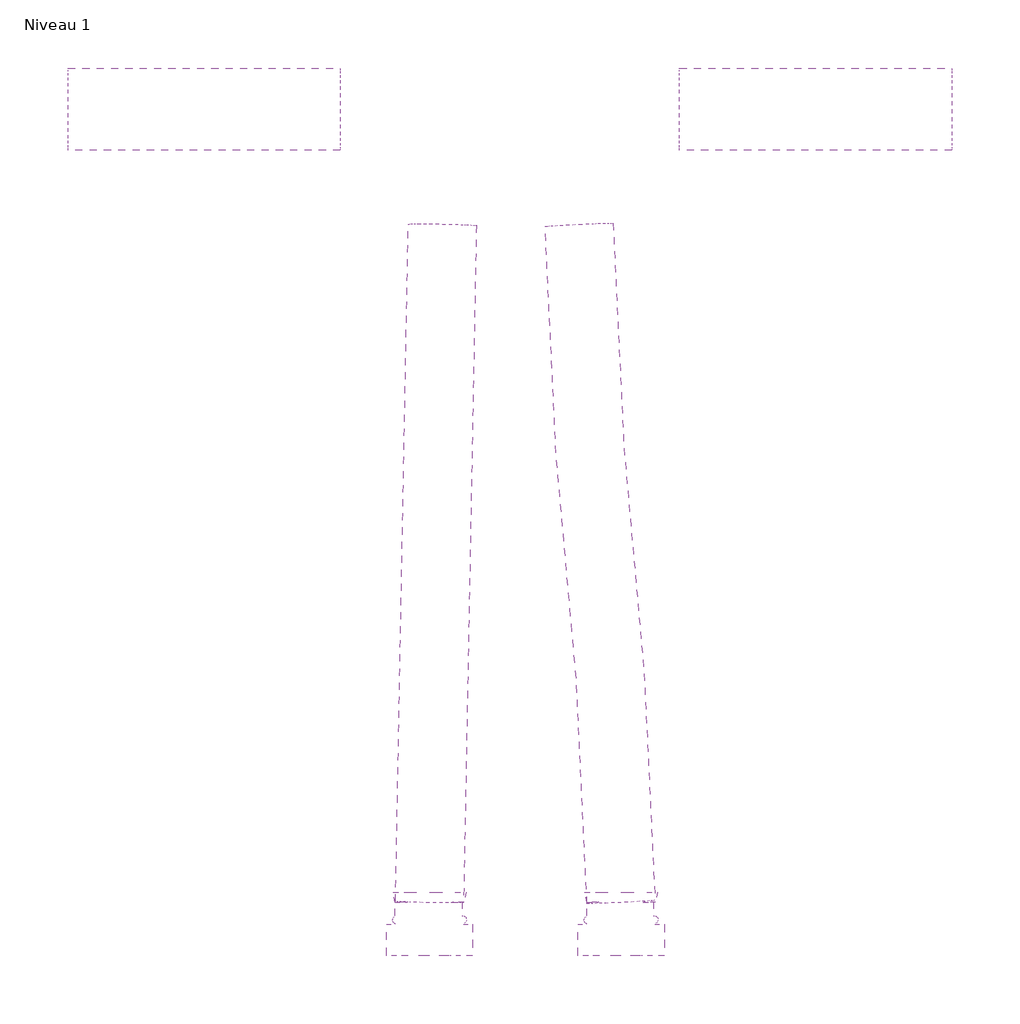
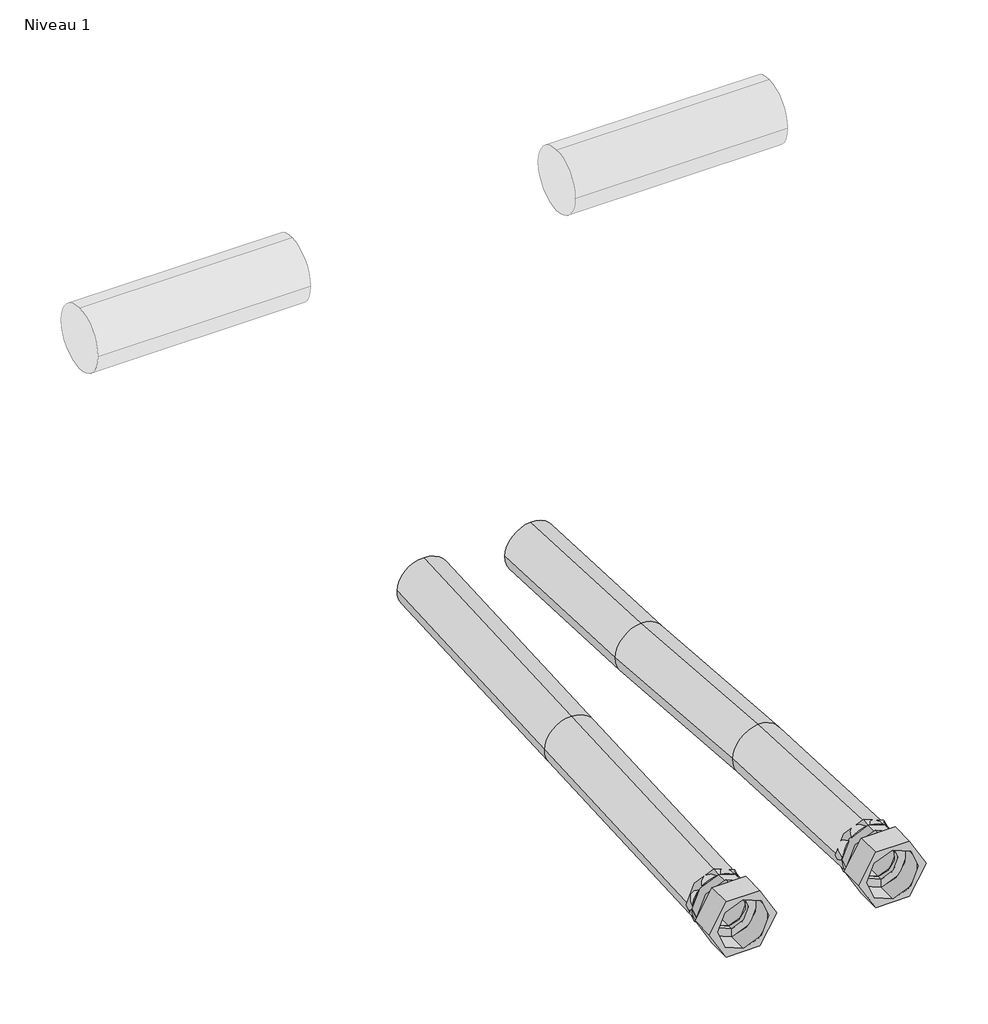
# One storey, incomplete: 4 pipe segments, 2 pipe fittings.
"""IFC4 building model written with IfcOpenShell, lengths in millimetres."""

import ifcopenshell
import ifcopenshell.guid

model = None  # the IFC model being written
_history = None  # IfcOwnerHistory: only IFC2X3 demands one
_inside = {}  # id of a spatial element -> (the spatial element, [elements in it])
_under = {}  # id of a project, library or spatial element -> (it, [spatial elements below it])
_declared = {}  # id of a project -> (the project, [libraries it declares])
_typed = {}  # id of a type object -> (the type object, [elements of that type])
_made_of = {}  # id of a material, layer set ... -> (it, [elements and type objects made of it])


def new_model(schema):
    """Start an empty IFC model of exactly this schema.

    Asked for "IFC4X3", IfcOpenShell would pick the latest addendum, in which some entities
    have other attributes; the version numbers below select the first issue.
    IFC2X3 requires an IfcOwnerHistory on every rooted entity: one is made here for all.
    """
    global model, _history
    if schema == "IFC4X3":
        model = ifcopenshell.file(schema_version=(4, 3, 0, 0))
    else:
        model = ifcopenshell.file(schema=schema)
    _inside.clear()
    _under.clear()
    _declared.clear()
    _typed.clear()
    _made_of.clear()
    _history = None
    if model.schema == "IFC2X3":
        org = make("IfcOrganization", Name="unknown")
        user = make(
            "IfcPersonAndOrganization",
            ThePerson=make("IfcPerson", FamilyName="unknown"),
            TheOrganization=org,
        )
        app = make(
            "IfcApplication",
            ApplicationDeveloper=org,
            Version="unknown",
            ApplicationFullName="unknown",
            ApplicationIdentifier="unknown",
        )
        _history = make(
            "IfcOwnerHistory",
            OwningUser=user,
            OwningApplication=app,
            ChangeAction="ADDED",
            CreationDate=0,
        )
    return model


def make(cls, **values):
    """One entity of the class cls with the attributes given. An attribute that is None is left unset."""
    return model.create_entity(
        cls, **{name: value for name, value in values.items() if value is not None}
    )


def rooted(cls, **values):
    """An entity with a GlobalId (a new one), such as an element, a storey or a relation."""
    return make(cls, GlobalId=ifcopenshell.guid.new(), OwnerHistory=_history, **values)


def si_unit(unit_type, name, prefix=None):
    """IfcSIUnit, for example si_unit("LENGTHUNIT", "METRE", prefix="MILLI")."""
    return make("IfcSIUnit", UnitType=unit_type, Prefix=prefix, Name=name)


def assignment(units):
    """IfcUnitAssignment: the units of a project."""
    return None if units is None else make("IfcUnitAssignment", Units=units)


def point(xyz):
    """IfcCartesianPoint."""
    return None if xyz is None else make("IfcCartesianPoint", Coordinates=xyz)


def direction(xyz):
    """IfcDirection."""
    return None if xyz is None else make("IfcDirection", DirectionRatios=xyz)


def frame(location, z_axis=None, x_axis=None):
    """IfcAxis2Placement3D, a coordinate frame: its origin and axes. An axis left out is left unset."""
    return make(
        "IfcAxis2Placement3D",
        Location=point(location),
        Axis=direction(z_axis),
        RefDirection=direction(x_axis),
    )


def frame_2d(location, x_axis=None):
    """IfcAxis2Placement2D, a coordinate frame in the plane: its origin and x axis."""
    return make(
        "IfcAxis2Placement2D", Location=point(location), RefDirection=direction(x_axis)
    )


def origin():
    """The frame at (0, 0, 0) with its axes left unset."""
    return frame((0.0, 0.0, 0.0))


def place(relative_to, where):
    """IfcLocalPlacement: puts the frame where relative to a parent placement (None: the world)."""
    return make(
        "IfcLocalPlacement", PlacementRelTo=relative_to, RelativePlacement=where
    )


def context(
    kind, dimensions, precision=None, world=None, true_north=None, identifier=None
):
    """IfcGeometricRepresentationContext, for example the 3D "Model" context."""
    return make(
        "IfcGeometricRepresentationContext",
        ContextIdentifier=identifier,
        ContextType=kind,
        CoordinateSpaceDimension=dimensions,
        Precision=precision,
        WorldCoordinateSystem=world,
        TrueNorth=true_north,
    )


def project(units=None, contexts=None):
    """IfcProject with its units and contexts."""
    return rooted(
        "IfcProject",
        Name="project",
        RepresentationContexts=contexts,
        UnitsInContext=assignment(units),
    )


def spatial(cls, under=None, at=None, **own):
    """A site, building, storey or space (cls), placed at a placement, below another one or the project."""
    s = rooted(cls, ObjectPlacement=at, **own)
    if under is not None:
        _under.setdefault(under.id(), (under, []))[1].append(s)
    return s


def polyline(points):
    """IfcPolyline through the points."""
    return make("IfcPolyline", Points=[point(p) for p in points])


def circle_curve(where, radius):
    """IfcCircle in the frame where."""
    return make("IfcCircle", Position=where, Radius=radius)


def ellipse_curve(where, semi_axis1, semi_axis2):
    """IfcEllipse in the frame where."""
    return make(
        "IfcEllipse", Position=where, SemiAxis1=semi_axis1, SemiAxis2=semi_axis2
    )


def trimmed(basis, trim1, trim2, sense, master):
    """IfcTrimmedCurve: the piece of a basis curve between two trims."""
    return make(
        "IfcTrimmedCurve",
        BasisCurve=basis,
        Trim1=trim1,
        Trim2=trim2,
        SenseAgreement=sense,
        MasterRepresentation=master,
    )


def segment(curve, same_sense, transition):
    """IfcCompositeCurveSegment."""
    return make(
        "IfcCompositeCurveSegment",
        Transition=transition,
        SameSense=same_sense,
        ParentCurve=curve,
    )


def composite_curve(segments, self_intersect=None):
    """IfcCompositeCurve: segments joined end to end."""
    return make("IfcCompositeCurve", Segments=segments, SelfIntersect=self_intersect)


def outline(outer, holes=None, kind="AREA"):
    """IfcArbitraryClosedProfileDef: a profile drawn as a closed curve; with holes, ...WithVoids."""
    if holes is None:
        return make("IfcArbitraryClosedProfileDef", ProfileType=kind, OuterCurve=outer)
    return make(
        "IfcArbitraryProfileDefWithVoids",
        ProfileType=kind,
        OuterCurve=outer,
        InnerCurves=holes,
    )


def extrude(swept, where, along, depth):
    """IfcExtrudedAreaSolid: the profile swept, set in the frame where, extruded along a direction by depth."""
    return make(
        "IfcExtrudedAreaSolid",
        SweptArea=swept,
        Position=where,
        ExtrudedDirection=direction(along),
        Depth=depth,
    )


def shape(context_of_items, identifier, shape_type, items):
    """IfcShapeRepresentation: the items that make up one representation, for example the "Body"."""
    return make(
        "IfcShapeRepresentation",
        ContextOfItems=context_of_items,
        RepresentationIdentifier=identifier,
        RepresentationType=shape_type,
        Items=items,
    )


def source(mapping_origin, context_of_items, identifier, shape_type, items):
    """IfcRepresentationMap: a shape defined once, which mapped items show again and again."""
    return make(
        "IfcRepresentationMap",
        MappingOrigin=mapping_origin,
        MappedRepresentation=shape(context_of_items, identifier, shape_type, items),
    )


def transform(
    local_origin,
    x_axis=None,
    y_axis=None,
    z_axis=None,
    scale=None,
    scale2=None,
    scale3=None,
    uniform=True,
):
    """IfcCartesianTransformationOperator3D, or its non-uniform kind. x_axis, y_axis, z_axis: its Axis1, 2, 3."""
    if uniform:
        return make(
            "IfcCartesianTransformationOperator3D",
            Axis1=direction(x_axis),
            Axis2=direction(y_axis),
            LocalOrigin=point(local_origin),
            Scale=scale,
            Axis3=direction(z_axis),
        )
    return make(
        "IfcCartesianTransformationOperator3DnonUniform",
        Axis1=direction(x_axis),
        Axis2=direction(y_axis),
        LocalOrigin=point(local_origin),
        Scale=scale,
        Axis3=direction(z_axis),
        Scale2=scale2,
        Scale3=scale3,
    )


def mapped(mapping_source, mapping_target):
    """IfcMappedItem: shows the shape of a source again, moved by a transform."""
    return make(
        "IfcMappedItem", MappingSource=mapping_source, MappingTarget=mapping_target
    )


def made_of(thing, what):
    """Note that an element or type object is made of a material, layer set ...; save() writes the relation."""
    if what is not None:
        _made_of.setdefault(what.id(), (what, []))[1].append(thing)
    return thing


def element(
    cls,
    number,
    at=None,
    inside=None,
    cuts=None,
    type_object=None,
    material=None,
    context=None,
    identifier="Body",
    shape_type=None,
    held_by="IfcProductDefinitionShape",
    body=None,
    shapes=None,
    **own,
):
    """One element of the class cls, such as IfcWall. Its Tag is "e" and its number.

    at: its placement. inside: the storey or other place that contains it. cuts: it is an
    opening in that element (IfcRelVoidsElement). A single representation is given by context,
    identifier, shape_type and body (its items); several are given by shapes. held_by: the class
    of the entity that holds the representations. save() writes the other relations.
    """
    e = rooted(cls, Tag="e%d" % number, ObjectPlacement=at, **own)
    if body is not None:
        shapes = [shape(context, identifier, shape_type, body)]
    if shapes is not None:
        e.Representation = make(held_by, Representations=shapes)
    if inside is not None:
        _inside.setdefault(inside.id(), (inside, []))[1].append(e)
    if cuts is not None:
        rooted(
            "IfcRelVoidsElement", RelatingBuildingElement=cuts, RelatedOpeningElement=e
        )
    if type_object is not None:
        _typed.setdefault(type_object.id(), (type_object, []))[1].append(e)
    return made_of(e, material)


def aggregate(whole, parts):
    """IfcRelAggregates: a whole, such as a stair, and the parts it consists of."""
    return rooted("IfcRelAggregates", RelatingObject=whole, RelatedObjects=parts)


def save(model, path):
    """Write the relations noted so far, then the file.

    IfcRelAggregates (storeys below a building ...), IfcRelContainedInSpatialStructure (elements
    in a storey), IfcRelDefinesByType, IfcRelAssociatesMaterial and IfcRelDeclares: one each for
    every whole, place, type object, material and project.
    """
    for whole, parts in _under.values():
        aggregate(whole, parts)
    for where, things in _inside.values():
        rooted(
            "IfcRelContainedInSpatialStructure",
            RelatedElements=things,
            RelatingStructure=where,
        )
    for kind, things in _typed.values():
        rooted("IfcRelDefinesByType", RelatedObjects=things, RelatingType=kind)
    for what, things in _made_of.values():
        rooted("IfcRelAssociatesMaterial", RelatedObjects=things, RelatingMaterial=what)
    for by, libraries in _declared.values():
        rooted("IfcRelDeclares", RelatingContext=by, RelatedDefinitions=libraries)
    model.write(path)


def plane_surface(at):
    """IfcPlane: the flat surface through the origin of the frame at, square to its z axis."""
    return make("IfcPlane", Position=at)


def cylinder_surface(at, radius):
    """IfcCylindricalSurface: all points at the distance radius from the z axis of the frame at."""
    return make("IfcCylindricalSurface", Position=at, Radius=radius)


def revolved_surface(curve, axis_point, axis_direction):
    """IfcSurfaceOfRevolution: the curve turned about the line through axis_point along axis_direction."""
    return make(
        "IfcSurfaceOfRevolution",
        SweptCurve=make("IfcArbitraryOpenProfileDef", ProfileType="CURVE", Curve=curve),
        AxisPosition=make("IfcAxis1Placement", Location=point(axis_point), Axis=direction(axis_direction)),
    )


def advanced_brep(points, edges, surfaces, faces):
    """IfcAdvancedBrep: a solid bounded by faces that lie on surfaces and meet in shared edges.

    An edge is (start, end): straight between two places in points (the first is 0);
    or (start, end, curve); or (start, end, curve, False) where it runs against its curve.
    A face is (place in surfaces, loops), or (place, loops, False) where it looks against
    its surface's normal. A loop lists edges by number (the first is 1), with a minus sign
    where the edge is run from its end to its start. The first loop is the outer one.
    """
    corners = [point(p) for p in points]
    vertices = [make("IfcVertexPoint", VertexGeometry=c) for c in corners]
    made = []
    for start, end, *more in edges:
        made.append(
            make(
                "IfcEdgeCurve",
                EdgeStart=vertices[start],
                EdgeEnd=vertices[end],
                EdgeGeometry=more[0] if more else make("IfcPolyline", Points=[corners[start], corners[end]]),
                SameSense=more[1] if len(more) > 1 else True,
            )
        )
    hull = []
    for where, loops, *sense in faces:
        bounds = []
        for j, loop in enumerate(loops):
            ring = [make("IfcOrientedEdge", EdgeElement=made[abs(k) - 1], Orientation=k > 0) for k in loop]
            bounds.append(
                make(
                    "IfcFaceOuterBound" if j == 0 else "IfcFaceBound",
                    Bound=make("IfcEdgeLoop", EdgeList=ring),
                    Orientation=True,
                )
            )
        hull.append(make("IfcAdvancedFace", Bounds=bounds, FaceSurface=surfaces[where], SameSense=sense[0] if sense else True))
    return make("IfcAdvancedBrep", Outer=make("IfcClosedShell", CfsFaces=hull))


def pipe_fitting_73059a0c(model_context):
    return source(origin(), model_context, "Body", "AdvancedBrep", [
        advanced_brep(
        [(0.0, 39.498215, -25.1751434), (0.0, 39.498215, 25.1751434), (0.0, 29.498215, 25.1751434), (0.0, 29.498215, -25.1751434), (0.0, 46.7939176, -26.7356506), (0.0, 46.7939176, 26.7356506), (0.0, 39.6718759, -24.3627676), (0.0, 39.6718759, 24.3627676), (0.0, 46.7939176, 25.7671136), (0.0, 46.7939176, -25.7671136), (0.0, 39.6718759, -16.0916757), (0.0, 39.6718759, 16.0916757), (0.0, 23.3958279, -24.9934981), (0.0, 23.3958279, 24.9934981), (0.0, 23.3958279, 16.0916757), (0.0, 23.3958279, -16.0916757)],
        [
            (0, 1, circle_curve(frame((0.0, 39.498215, 0.0), z_axis=(0.0, -1.0, 0.0), x_axis=(0.0, 0.0, 1.0)), 25.1751434)),
            (1, 2),
            (2, 3, circle_curve(frame((0.0, 29.498215, 0.0), z_axis=(0.0, 1.0, 0.0), x_axis=(0.0, 0.0, 1.0)), 25.1751434)),
            (3, 0),
            (1, 0, circle_curve(frame((0.0, 39.498215, 0.0), z_axis=(0.0, -1.0, 0.0), x_axis=(0.0, 0.0, 1.0)), 25.1751434)),
            (3, 2, circle_curve(frame((0.0, 29.498215, 0.0), z_axis=(0.0, 1.0, 0.0), x_axis=(0.0, 0.0, 1.0)), 25.1751434)),
            (0, 4, circle_curve(frame((0.0, 46.3570069, -10.9435686), z_axis=(1.0, 0.0, 0.0), x_axis=(0.0, -1.0, 0.0)), 15.7981248)),
            (4, 5, circle_curve(frame((0.0, 46.7939176, 0.0), z_axis=(0.0, -1.0, 0.0), x_axis=(0.0, 0.0, 1.0)), 26.7356506)),
            (5, 1, circle_curve(frame((0.0, 46.3570069, 10.9435686), z_axis=(1.0, 0.0, 0.0), x_axis=(0.0, -1.0, 0.0)), 15.7981248)),
            (5, 4, circle_curve(frame((0.0, 46.7939176, 0.0), z_axis=(0.0, -1.0, 0.0), x_axis=(0.0, 0.0, 1.0)), 26.7356506)),
            (6, 7, circle_curve(frame((0.0, 39.6718759, 0.0), z_axis=(0.0, -1.0, 0.0), x_axis=(0.0, 0.0, 1.0)), 24.3627676)),
            (7, 8, circle_curve(frame((0.0, 46.1278476, 10.3834015), z_axis=(-1.0, 0.0, 0.0), x_axis=(0.0, -1.0, 0.0)), 15.3981248)),
            (8, 9, circle_curve(frame((0.0, 46.7939176, 0.0), z_axis=(0.0, 1.0, 0.0), x_axis=(0.0, 0.0, 1.0)), 25.7671136)),
            (9, 6, circle_curve(frame((0.0, 46.1278476, -10.3834015), z_axis=(-1.0, 0.0, 0.0), x_axis=(0.0, -1.0, 0.0)), 15.3981248)),
            (7, 6, circle_curve(frame((0.0, 39.6718759, 0.0), z_axis=(0.0, -1.0, 0.0), x_axis=(0.0, 0.0, 1.0)), 24.3627676)),
            (9, 8, circle_curve(frame((0.0, 46.7939176, 0.0), z_axis=(0.0, 1.0, 0.0), x_axis=(0.0, 0.0, 1.0)), 25.7671136)),
            (6, 10),
            (10, 11, circle_curve(frame((0.0, 39.6718759, 0.0), z_axis=(0.0, -1.0, 0.0), x_axis=(0.0, 0.0, 1.0)), 16.0916757)),
            (11, 7),
            (11, 10, circle_curve(frame((0.0, 39.6718759, 0.0), z_axis=(0.0, -1.0, 0.0), x_axis=(0.0, 0.0, 1.0)), 16.0916757)),
            (12, 13, circle_curve(frame((0.0, 23.3958279, 0.0), z_axis=(0.0, -1.0, 0.0), x_axis=(0.0, 0.0, 1.0)), 24.9934981)),
            (13, 14),
            (14, 15, circle_curve(frame((0.0, 23.3958279, 0.0), z_axis=(0.0, 1.0, 0.0), x_axis=(0.0, 0.0, 1.0)), 16.0916757)),
            (15, 12),
            (13, 12, circle_curve(frame((0.0, 23.3958279, 0.0), z_axis=(0.0, -1.0, 0.0), x_axis=(0.0, 0.0, 1.0)), 24.9934981)),
            (15, 14, circle_curve(frame((0.0, 23.3958279, 0.0), z_axis=(0.0, 1.0, 0.0), x_axis=(0.0, 0.0, 1.0)), 16.0916757)),
            (2, 13, circle_curve(frame((0.0, 26.4795374, 23.9919456), z_axis=(1.0, 0.0, 0.0), x_axis=(0.0, -1.0, 0.0)), 3.2422788)),
            (12, 3, circle_curve(frame((0.0, 26.4795374, -23.9919456), z_axis=(1.0, 0.0, 0.0), x_axis=(0.0, -1.0, 0.0)), 3.2422788)),
            (14, 11),
            (10, 15),
            (4, 9),
            (8, 5),
        ],
        [
            cylinder_surface(frame((0.0, -30.0, 0.0), z_axis=(0.0, 1.0, 0.0), x_axis=(0.0, 0.0, 1.0)), 25.1751434),
            revolved_surface(trimmed(ellipse_curve(frame((0.0, 46.3570069, 10.9435686), z_axis=(-1.0, 0.0, 0.0), x_axis=(0.0, -1.0, 0.0)), 15.7981248, 15.7981248), [point((0.0, 39.498215, 25.1751434))], [point((0.0, 46.7939176, 26.7356506))], True, "CARTESIAN"), (0.0, -30.0, 0.0), (0.0, 1.0, 0.0)),
            revolved_surface(trimmed(ellipse_curve(frame((0.0, 46.1278476, 10.3834015), z_axis=(1.0, 0.0, 0.0), x_axis=(0.0, -1.0, 0.0)), 15.3981248, 15.3981248), [point((0.0, 46.7939176, 25.7671136))], [point((0.0, 39.6718759, 24.3627676))], True, "CARTESIAN"), (0.0, -30.0, 0.0), (0.0, 1.0, 0.0)),
            plane_surface(frame((0.0, 39.6718759, 0.0), z_axis=(0.0, 1.0, 0.0), x_axis=(0.0, 0.0, 1.0))),
            plane_surface(frame((0.0, 23.3958279, 0.0), z_axis=(0.0, -1.0, 0.0), x_axis=(0.0, 0.0, 1.0))),
            revolved_surface(trimmed(ellipse_curve(frame((0.0, 26.4795374, 23.9919456), z_axis=(-1.0, 0.0, 0.0), x_axis=(0.0, -1.0, 0.0)), 3.2422788, 3.2422788), [point((0.0, 23.3958279, 24.9934981))], [point((0.0, 29.498215, 25.1751434))], True, "CARTESIAN"), (0.0, -30.0, 0.0), (0.0, 1.0, 0.0)),
            revolved_surface(polyline([(0.0, 39.6718759, 16.0916757), (0.0, 23.3958279, 16.0916757)]), (0.0, 6.7414234, 0.0), (0.0, 1.0, 0.0)),
            plane_surface(frame((0.0, 46.7939176, 0.0), z_axis=(0.0, 1.0, 0.0), x_axis=(0.0, 0.0, 1.0))),
        ],
        [
            (0, [[1, 2, 3, 4]]),
            (0, [[-2, 5, -4, 6]]),
            (1, [[-1, 7, 8, 9]]),
            (1, [[-5, -9, 10, -7]]),
            (2, [[11, 12, 13, 14]]),
            (2, [[-12, 15, -14, 16]]),
            (3, [[-11, 17, 18, 19]]),
            (3, [[-15, -19, 20, -17]]),
            (4, [[21, 22, 23, 24]]),
            (4, [[25, -24, 26, -22]]),
            (5, [[-3, 27, -21, 28]]),
            (5, [[-6, -28, -25, -27]]),
            (6, [[29, -18, 30, -23]]),
            (6, [[-29, -26, -30, -20]]),
            (7, [[-8, 31, -13, 32]]),
            (7, [[-10, -32, -16, -31]]),
        ],
    ),
        advanced_brep(
        [(15.8771324, 23.3958279, 27.5), (31.7542648, 23.3958279, 0.0), (15.8771324, 23.3958279, -27.5), (-15.8771324, 23.3958279, -27.5), (-31.7542648, 23.3958279, 0.0), (-15.8771324, 23.3958279, 27.5), (0.0, 23.3958279, -16.1061091), (0.0, 23.3958279, 16.1061091), (15.8771324, 0.0, 27.5), (-15.8771324, 0.0, 27.5), (-31.7542648, 0.0, 0.0), (-15.8771324, 0.0, -27.5), (15.8771324, 0.0, -27.5), (31.7542648, 0.0, 0.0), (0.0, 0.0, 24.1061091), (0.0, 0.0, -24.1061091), (0.0, 18.8507541, -16.1061091), (0.0, 18.8507541, -24.1061091), (0.0, 18.8507541, 24.1061091), (0.0, 18.8507541, 16.1061091)],
        [
            (0, 1),
            (1, 2),
            (2, 3),
            (3, 4),
            (4, 5),
            (5, 0),
            (6, 7, circle_curve(frame((0.0, 23.3958279, 0.0), z_axis=(0.0, -1.0, 0.0), x_axis=(0.0, 0.0, 1.0)), 16.1061091)),
            (7, 6, circle_curve(frame((0.0, 23.3958279, 0.0), z_axis=(0.0, -1.0, 0.0), x_axis=(0.0, 0.0, 1.0)), 16.1061091)),
            (8, 9),
            (9, 10),
            (10, 11),
            (11, 12),
            (12, 13),
            (13, 8),
            (14, 15, circle_curve(frame((0.0, 0.0, 0.0), z_axis=(0.0, 1.0, 0.0), x_axis=(0.0, 0.0, 1.0)), 24.1061091)),
            (15, 14, circle_curve(frame((0.0, 0.0, 0.0), z_axis=(0.0, 1.0, 0.0), x_axis=(0.0, 0.0, 1.0)), 24.1061091)),
            (0, 8),
            (13, 1),
            (12, 2),
            (11, 3),
            (10, 4),
            (9, 5),
            (16, 17),
            (17, 18, circle_curve(frame((0.0, 18.8507541, 0.0), z_axis=(0.0, -1.0, 0.0), x_axis=(0.0, 0.0, 1.0)), 24.1061091)),
            (18, 19),
            (19, 16, circle_curve(frame((0.0, 18.8507541, 0.0), z_axis=(0.0, 1.0, 0.0), x_axis=(0.0, 0.0, 1.0)), 16.1061091)),
            (16, 19, circle_curve(frame((0.0, 18.8507541, 0.0), z_axis=(0.0, 1.0, 0.0), x_axis=(0.0, 0.0, 1.0)), 16.1061091)),
            (18, 17, circle_curve(frame((0.0, 18.8507541, 0.0), z_axis=(0.0, -1.0, 0.0), x_axis=(0.0, 0.0, 1.0)), 24.1061091)),
            (17, 15),
            (14, 18),
            (19, 7),
            (6, 16),
        ],
        [
            plane_surface(frame((7.9385662, 23.3958279, 41.25), z_axis=(0.0, 1.0, 0.0), x_axis=(0.4999999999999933, 0.0, -0.8660254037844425))),
            plane_surface(frame((7.9385662, 0.0, 41.25), z_axis=(0.0, -1.0, 0.0), x_axis=(-0.4999999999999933, 0.0, 0.8660254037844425))),
            plane_surface(frame((15.8771324, 23.3958279, 27.5), z_axis=(0.8660254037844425, 0.0, 0.4999999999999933), x_axis=(0.0, -1.0, 0.0))),
            plane_surface(frame((31.7542648, 23.3958279, 0.0), z_axis=(0.8660254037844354, 0.0, -0.5000000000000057), x_axis=(0.0, -1.0, 0.0))),
            plane_surface(frame((15.8771324, 23.3958279, -27.5), z_axis=(0.0, 0.0, -1.0), x_axis=(0.0, -1.0, 0.0))),
            plane_surface(frame((-15.8771324, 23.3958279, -27.5), z_axis=(-0.8660254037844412, 0.0, -0.4999999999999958), x_axis=(0.0, -1.0, 0.0))),
            plane_surface(frame((-31.7542648, 23.3958279, 0.0), z_axis=(-0.8660254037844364, 0.0, 0.500000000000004), x_axis=(0.0, -1.0, 0.0))),
            plane_surface(frame((-15.8771324, 23.3958279, 27.5), z_axis=(0.0, 0.0, 1.0), x_axis=(0.0, -1.0, 0.0))),
            plane_surface(frame((0.0, 18.8507541, 0.0), z_axis=(0.0, -1.0, 0.0), x_axis=(0.0, 0.0, 1.0))),
            revolved_surface(polyline([(0.0, 18.850754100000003, 24.1061091), (0.0, 0.0, 24.1061091)]), (0.0, -30.0, 0.0), (0.0, 1.0, 0.0)),
            revolved_surface(polyline([(0.0, 23.3958279, 16.1061091), (0.0, 18.850754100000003, 16.1061091)]), (0.0, -30.0, 0.0), (0.0, 1.0, 0.0)),
        ],
        [
            (0, [[1, 2, 3, 4, 5, 6], [7, 8]]),
            (1, [[9, 10, 11, 12, 13, 14], [15, 16]]),
            (2, [[-1, 17, -14, 18]]),
            (3, [[-2, -18, -13, 19]]),
            (4, [[-3, -19, -12, 20]]),
            (5, [[-4, -20, -11, 21]]),
            (6, [[-5, -21, -10, 22]]),
            (7, [[-6, -22, -9, -17]]),
            (8, [[23, 24, 25, 26]]),
            (8, [[-23, 27, -25, 28]]),
            (9, [[-24, 29, -15, 30]]),
            (9, [[-28, -30, -16, -29]]),
            (10, [[-26, 31, -7, 32]]),
            (10, [[-27, -32, -8, -31]]),
        ],
    ),
    ])


model = new_model("IFC4")

# Units and contexts
model_context = context("Model", 3, world=origin())
ifc_project = project(units=[si_unit("LENGTHUNIT", "METRE", prefix="MILLI")], contexts=[model_context])

# Site, building, storey
site = spatial("IfcSite", under=ifc_project)
building = spatial("IfcBuilding", under=site)
storey = spatial("IfcBuildingStorey", under=building, Name="Niveau 1", Elevation=0.0)

# Pipe fittings
placement = place(None, origin())
pipe_fitting_shape = pipe_fitting_73059a0c(model_context)
element("IfcPipeFitting", 1, ObjectType="BWT_Raccord Aval : BWT_Raccord Aval", at=placement, inside=storey, context=model_context, shape_type="MappedRepresentation", body=[
    mapped(pipe_fitting_shape, transform((852.8984863, -2754.9395637, 1651.1), x_axis=(1.0000000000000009, 0.0, 0.0), y_axis=(0.0, 1.0000000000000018, 0.0), z_axis=(0.0, 0.0, 1.0000000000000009))),
])
element("IfcPipeFitting", 2, ObjectType="BWT_Raccord Aval : BWT_Raccord Aval", at=placement, inside=storey, context=model_context, shape_type="MappedRepresentation", body=[
    mapped(pipe_fitting_shape, transform((712.173664, -2754.9395637, 1651.1), x_axis=(1.0000000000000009, 0.0, 0.0), y_axis=(0.0, 1.0000000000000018, 0.0), z_axis=(0.0, 0.0, 1.0000000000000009))),
])

# Pipe segments
element("IfcPipeSegment", 3, ObjectType="Souple - Circulaire", at=placement, inside=storey, context=model_context, shape_type="AdvancedBrep", body=[
    advanced_brep(
    [(687.1781024, -2714.7966282, 1651.1), (712.1842882, -2714.703945, 1626.1063592), (737.1692257, -2715.7387473, 1651.1), (712.1630399, -2715.8314305, 1676.0936408), (691.8640599, -2466.1483562, 1656.7103649), (716.8702457, -2466.055673, 1631.7167241), (741.8551833, -2467.0904753, 1656.7103649), (716.8489975, -2467.1831585, 1681.7040057), (696.5500175, -2217.5000843, 1662.3207297), (721.534955, -2218.5348866, 1687.3143706), (746.5411408, -2218.4422034, 1662.3207297), (721.5562033, -2217.4074011, 1637.3270889)],
    [
        (0, 1, circle_curve(frame((712.173664, -2715.2676878, 1651.1), z_axis=(-0.018837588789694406, -0.9995681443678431, -0.02255371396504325), x_axis=(-0.999822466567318, 0.018842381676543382, 0.0)), 25.0)),
        (1, 2, circle_curve(frame((712.173664, -2715.2676878, 1651.1), z_axis=(-0.018837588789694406, -0.9995681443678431, -0.02255371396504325), x_axis=(-0.999822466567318, 0.018842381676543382, 0.0)), 25.0)),
        (2, 3, circle_curve(frame((712.173664, -2715.2676878, 1651.1), z_axis=(-0.018837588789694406, -0.9995681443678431, -0.02255371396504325), x_axis=(-0.999822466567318, 0.018842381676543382, 0.0)), 25.0)),
        (3, 0, circle_curve(frame((712.173664, -2715.2676878, 1651.1), z_axis=(-0.018837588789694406, -0.9995681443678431, -0.02255371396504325), x_axis=(-0.999822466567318, 0.018842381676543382, 0.0)), 25.0)),
        (0, 4),
        (4, 5, circle_curve(frame((716.8596216, -2466.6194158, 1656.7103649), z_axis=(-0.018837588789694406, -0.9995681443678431, -0.02255371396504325), x_axis=(-0.999822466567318, 0.018842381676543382, 0.0)), 25.0)),
        (5, 1),
        (5, 6, circle_curve(frame((716.8596216, -2466.6194158, 1656.7103649), z_axis=(-0.018837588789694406, -0.9995681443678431, -0.02255371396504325), x_axis=(-0.999822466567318, 0.018842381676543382, 0.0)), 25.0)),
        (6, 2),
        (6, 7, circle_curve(frame((716.8596216, -2466.6194158, 1656.7103649), z_axis=(-0.018837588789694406, -0.9995681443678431, -0.02255371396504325), x_axis=(-0.999822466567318, 0.018842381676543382, 0.0)), 25.0)),
        (7, 3),
        (7, 4, circle_curve(frame((716.8596216, -2466.6194158, 1656.7103649), z_axis=(-0.018837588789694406, -0.9995681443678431, -0.02255371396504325), x_axis=(-0.999822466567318, 0.018842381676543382, 0.0)), 25.0)),
        (8, 9, circle_curve(frame((721.5455792, -2217.9711438, 1662.3207297), z_axis=(0.01883758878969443, 0.9995681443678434, 0.022553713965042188), x_axis=(-0.999822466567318, 0.018842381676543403, 0.0)), 25.0)),
        (9, 10, circle_curve(frame((721.5455792, -2217.9711438, 1662.3207297), z_axis=(0.01883758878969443, 0.9995681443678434, 0.022553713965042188), x_axis=(-0.999822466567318, 0.018842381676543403, 0.0)), 25.0)),
        (10, 11, circle_curve(frame((721.5455792, -2217.9711438, 1662.3207297), z_axis=(0.01883758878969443, 0.9995681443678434, 0.022553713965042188), x_axis=(-0.999822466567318, 0.018842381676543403, 0.0)), 25.0)),
        (11, 8, circle_curve(frame((721.5455792, -2217.9711438, 1662.3207297), z_axis=(0.01883758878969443, 0.9995681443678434, 0.022553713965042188), x_axis=(-0.999822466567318, 0.018842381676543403, 0.0)), 25.0)),
        (4, 8),
        (11, 5),
        (10, 6),
        (9, 7),
    ],
    [
        plane_surface(frame((712.173664, -2715.8316307, 1676.0936386), z_axis=(-0.018837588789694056, -0.9995681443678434, -0.022553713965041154), x_axis=(0.9998225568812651, -0.018832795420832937, -0.00042493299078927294))),
        cylinder_surface(frame((712.173664, -2715.2676878, 1651.1), z_axis=(-0.01883758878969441, -0.9995681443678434, -0.022553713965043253), x_axis=(-0.999822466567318, 0.018842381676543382, 0.0)), 25.0),
        plane_surface(frame((721.5455792, -2218.5350867, 1687.3143683), z_axis=(0.018837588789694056, 0.9995681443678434, 0.022553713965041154), x_axis=(0.9998225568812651, -0.018832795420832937, -0.00042493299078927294))),
        cylinder_surface(frame((716.8596216, -2466.6194158, 1656.7103649), z_axis=(-0.01883758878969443, -0.9995681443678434, -0.022553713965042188), x_axis=(-0.999822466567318, 0.018842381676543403, 0.0)), 25.0),
    ],
    [
        (0, [[1, 2, 3, 4]]),
        (1, [[-1, 5, 6, 7]]),
        (1, [[-2, -7, 8, 9]]),
        (1, [[-3, -9, 10, 11]]),
        (1, [[-4, -11, 12, -5]]),
        (2, [[13, 14, 15, 16]]),
        (3, [[-6, 17, -16, 18]]),
        (3, [[-8, -18, -15, 19]]),
        (3, [[-10, -19, -14, 20]]),
        (3, [[-12, -20, -13, -17]]),
    ],
),
])
element("IfcPipeSegment", 4, ObjectType="Souple - Circulaire", at=placement, inside=storey, context=model_context, shape_type="AdvancedBrep", body=[
    advanced_brep(
    [(827.9274268, -2716.4702629, 1651.1), (852.8774197, -2714.8302472, 1626.1038363), (877.8695458, -2714.0651126, 1651.1), (852.9195529, -2715.7051283, 1676.0961637), (819.9652802, -2551.1390222, 1654.0000577), (844.8814991, -2548.7977015, 1629.0161955), (869.8578683, -2547.7053793, 1654.0180984), (844.9416493, -2550.0467, 1679.0019606), (797.1207658, -2219.1737189, 1662.3207297), (822.1128919, -2218.4085843, 1687.3168935), (847.0628848, -2216.7685687, 1662.3207297), (822.0707587, -2217.5337033, 1637.324566), (805.1324434, -2385.5334523, 1659.4026313), (830.0486623, -2383.1921316, 1634.4187691), (855.0250315, -2382.0998094, 1659.420672), (830.1088125, -2384.4411301, 1684.4045342)],
    [
        (0, 1, circle_curve(frame((852.8984863, -2715.2676878, 1651.1), z_axis=(0.048095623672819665, -0.9986891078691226, -0.017517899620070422), x_axis=(-0.9988423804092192, -0.04810300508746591, 0.0)), 25.0)),
        (1, 2, circle_curve(frame((852.8984863, -2715.2676878, 1651.1), z_axis=(0.048095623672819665, -0.9986891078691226, -0.017517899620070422), x_axis=(-0.9988423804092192, -0.04810300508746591, 0.0)), 25.0)),
        (2, 3, circle_curve(frame((852.8984863, -2715.2676878, 1651.1), z_axis=(0.048095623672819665, -0.9986891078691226, -0.017517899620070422), x_axis=(-0.9988423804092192, -0.04810300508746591, 0.0)), 25.0)),
        (3, 0, circle_curve(frame((852.8984863, -2715.2676878, 1651.1), z_axis=(0.048095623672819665, -0.9986891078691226, -0.017517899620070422), x_axis=(-0.9988423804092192, -0.04810300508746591, 0.0)), 25.0)),
        (0, 4),
        (4, 5, ellipse_curve(frame((844.9115742, -2549.4222007, 1654.0090781), z_axis=(0.06864583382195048, -0.997327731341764, -0.02500291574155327), x_axis=(-0.9371030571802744, -0.07305748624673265, 0.34132164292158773)), 25.0060038, 25.0)),
        (5, 1),
        (5, 6, ellipse_curve(frame((844.9115742, -2549.4222007, 1654.0090781), z_axis=(0.06864583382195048, -0.997327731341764, -0.02500291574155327), x_axis=(-0.9371030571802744, -0.07305748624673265, 0.34132164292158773)), 25.0060038, 25.0)),
        (6, 2),
        (6, 7, ellipse_curve(frame((844.9115742, -2549.4222007, 1654.0090781), z_axis=(0.06864583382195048, -0.997327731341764, -0.02500291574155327), x_axis=(-0.9371030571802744, -0.07305748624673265, 0.34132164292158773)), 25.0060038, 25.0)),
        (7, 3),
        (7, 4, ellipse_curve(frame((844.9115742, -2549.4222007, 1654.0090781), z_axis=(0.06864583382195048, -0.997327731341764, -0.02500291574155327), x_axis=(-0.9371030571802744, -0.07305748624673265, 0.34132164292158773)), 25.0060038, 25.0)),
        (8, 9, circle_curve(frame((822.0918253, -2217.9711438, 1662.3207297), z_axis=(-0.04809562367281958, 0.9986891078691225, 0.01751789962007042), x_axis=(-0.9988423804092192, -0.04810300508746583, 0.0)), 25.0)),
        (9, 10, circle_curve(frame((822.0918253, -2217.9711438, 1662.3207297), z_axis=(-0.04809562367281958, 0.9986891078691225, 0.01751789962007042), x_axis=(-0.9988423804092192, -0.04810300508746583, 0.0)), 25.0)),
        (10, 11, circle_curve(frame((822.0918253, -2217.9711438, 1662.3207297), z_axis=(-0.04809562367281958, 0.9986891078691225, 0.01751789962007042), x_axis=(-0.9988423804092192, -0.04810300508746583, 0.0)), 25.0)),
        (11, 8, circle_curve(frame((822.0918253, -2217.9711438, 1662.3207297), z_axis=(-0.04809562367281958, 0.9986891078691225, 0.01751789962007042), x_axis=(-0.9988423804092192, -0.04810300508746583, 0.0)), 25.0)),
        (4, 12),
        (12, 13, ellipse_curve(frame((830.0787374, -2383.8166308, 1659.4116517), z_axis=(0.06864583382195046, -0.997327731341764, -0.02500291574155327), x_axis=(0.9371030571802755, 0.07305748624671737, -0.34132164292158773)), 25.0060038, 25.0)),
        (13, 5),
        (13, 14, ellipse_curve(frame((830.0787374, -2383.8166308, 1659.4116517), z_axis=(0.06864583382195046, -0.997327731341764, -0.02500291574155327), x_axis=(0.9371030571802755, 0.07305748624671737, -0.34132164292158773)), 25.0060038, 25.0)),
        (14, 6),
        (14, 15, ellipse_curve(frame((830.0787374, -2383.8166308, 1659.4116517), z_axis=(0.06864583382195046, -0.997327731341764, -0.02500291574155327), x_axis=(0.9371030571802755, 0.07305748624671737, -0.34132164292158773)), 25.0060038, 25.0)),
        (15, 7),
        (15, 12, ellipse_curve(frame((830.0787374, -2383.8166308, 1659.4116517), z_axis=(0.06864583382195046, -0.997327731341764, -0.02500291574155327), x_axis=(0.9371030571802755, 0.07305748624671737, -0.34132164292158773)), 25.0060038, 25.0)),
        (12, 8),
        (11, 13),
        (10, 14),
        (9, 15),
    ],
    [
        plane_surface(frame((852.8984863, -2715.7061427, 1676.0961549), z_axis=(0.048095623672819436, -0.9986891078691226, -0.01751789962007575), x_axis=(0.9988427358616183, 0.04808822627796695, 0.0008435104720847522))),
        cylinder_surface(frame((852.8984863, -2715.2676878, 1651.1), z_axis=(0.048095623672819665, -0.9986891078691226, -0.017517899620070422), x_axis=(-0.9988423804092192, -0.04810300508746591, 0.0)), 25.0),
        plane_surface(frame((822.0918253, -2218.4095987, 1687.3168846), z_axis=(-0.04809562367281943, 0.9986891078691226, 0.017517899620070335), x_axis=(0.9988427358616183, 0.04808822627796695, 0.0008435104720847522))),
        cylinder_surface(frame((844.9115742, -2549.4222007, 1654.0090781), z_axis=(0.08916308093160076, -0.9954874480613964, -0.0324759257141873), x_axis=(-0.9960152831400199, -0.08917676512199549, -0.001029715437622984)), 25.0),
        cylinder_surface(frame((830.0787374, -2383.8166308, 1659.4116517), z_axis=(0.048095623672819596, -0.9986891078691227, -0.017517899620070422), x_axis=(-0.9988423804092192, -0.04810300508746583, 0.0)), 25.0),
    ],
    [
        (0, [[1, 2, 3, 4]]),
        (1, [[-1, 5, 6, 7]]),
        (1, [[-2, -7, 8, 9]]),
        (1, [[-3, -9, 10, 11]]),
        (1, [[-4, -11, 12, -5]]),
        (2, [[13, 14, 15, 16]]),
        (3, [[-6, 17, 18, 19]]),
        (3, [[-8, -19, 20, 21]]),
        (3, [[-10, -21, 22, 23]]),
        (3, [[-12, -23, 24, -17]]),
        (4, [[-18, 25, -16, 26]]),
        (4, [[-20, -26, -15, 27]]),
        (4, [[-22, -27, -14, 28]]),
        (4, [[-24, -28, -13, -25]]),
    ],
),
])
element("IfcPipeSegment", 5, ObjectType="Standard", at=placement, inside=storey, context=model_context, shape_type="SweptSolid", body=[
    extrude(outline(composite_curve([segment(trimmed(circle_curve(frame_2d((-2133.0769881, 1950.0)), 30.1625), [point((-2163.2394881, 1950.0))], [point((-2133.0769881, 1980.1625))], False, "CARTESIAN"), True, "CONTINUOUS"), segment(trimmed(circle_curve(frame_2d((-2133.0769881, 1950.0)), 30.1625), [point((-2133.0769881, 1980.1625))], [point((-2102.9144881, 1950.0))], False, "CARTESIAN"), True, "CONTINUOUS"), segment(trimmed(circle_curve(frame_2d((-2133.0769881, 1950.0)), 30.1625), [point((-2102.9144881, 1950.0))], [point((-2133.0769881, 1919.8375))], False, "CARTESIAN"), True, "CONTINUOUS"), segment(trimmed(circle_curve(frame_2d((-2133.0769881, 1950.0)), 30.1625), [point((-2133.0769881, 1919.8375))], [point((-2163.2394881, 1950.0))], False, "CARTESIAN"), True, "CONTINUOUS")], self_intersect=False)), frame((895.9083938, 0.0, 0.0), z_axis=(1.0, 0.0, 0.0), x_axis=(0.0, 1.0, 0.0)), (0.0, 0.0, 1.0), 200.0),
])
element("IfcPipeSegment", 6, ObjectType="Standard", at=placement, inside=storey, context=model_context, shape_type="SweptSolid", body=[
    extrude(outline(composite_curve([segment(trimmed(circle_curve(frame_2d((-2133.0769881, 1950.0)), 30.1625), [point((-2102.9144881, 1950.0))], [point((-2133.0769881, 1919.8375))], False, "CARTESIAN"), True, "CONTINUOUS"), segment(trimmed(circle_curve(frame_2d((-2133.0769881, 1950.0)), 30.1625), [point((-2133.0769881, 1919.8375))], [point((-2163.2394881, 1950.0))], False, "CARTESIAN"), True, "CONTINUOUS"), segment(trimmed(circle_curve(frame_2d((-2133.0769881, 1950.0)), 30.1625), [point((-2163.2394881, 1950.0))], [point((-2133.0769881, 1980.1625))], False, "CARTESIAN"), True, "CONTINUOUS"), segment(trimmed(circle_curve(frame_2d((-2133.0769881, 1950.0)), 30.1625), [point((-2133.0769881, 1980.1625))], [point((-2102.9144881, 1950.0))], False, "CARTESIAN"), True, "CONTINUOUS")], self_intersect=False)), frame((446.5455792, 0.0, 0.0), z_axis=(1.0, 0.0, 0.0), x_axis=(0.0, 1.0, 0.0)), (0.0, 0.0, 1.0), 200.0),
])

save(model, "model.ifc")
